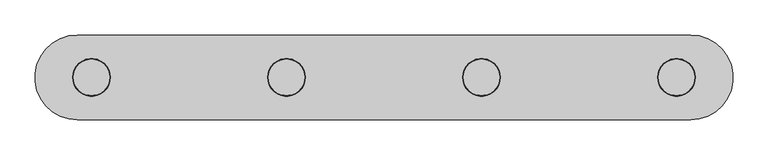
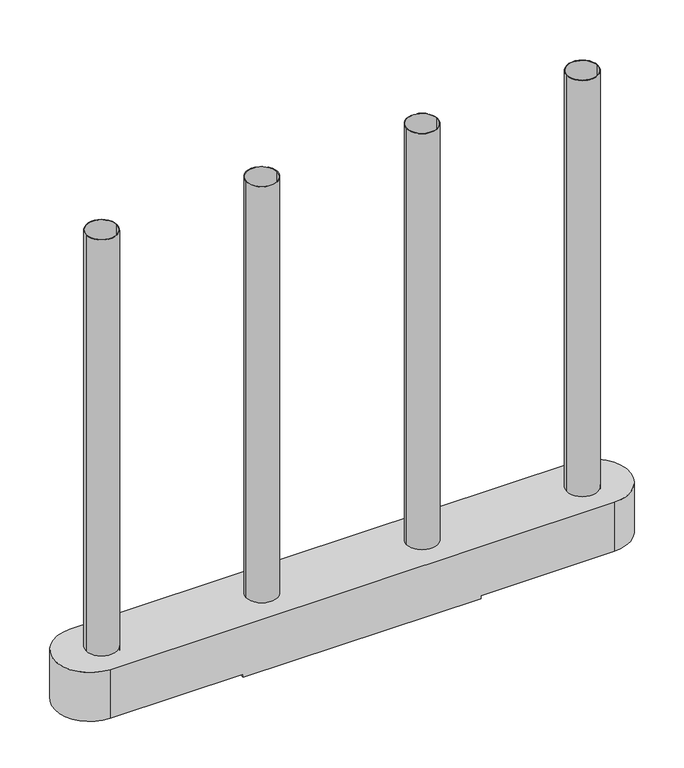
"""IFC4 building model written with IfcOpenShell, lengths in millimetres: proxy geometry, CapPierAssemble.sat."""

from ifc_helpers import new_model, si_unit, point, frame, frame_2d, origin, origin_with_axes, place, context, project, spatial, polyline, circle_curve, trimmed, segment, composite_curve, outline, extrude, source, transform, mapped, element, save
from ifc_brep_helpers import plane_surface, cylinder_surface, revolved_surface, advanced_brep


def generic_models_2d6eb1e5(model_context):
    return source(origin(), model_context, "Body", "SolidModel", [
        advanced_brep(
        [(5029.2, 0.0, -508.0), (5029.2, 0.0, 0.0), (4419.6, 0.0, 0.0), (4419.6, 0.0, -508.0), (-1270.0, 0.0, -508.0), (-1270.0, 0.0, 0.0), (-1879.6, 0.0, 0.0), (-1879.6, 0.0, -508.0), (-4419.6, 0.0, -508.0), (-4419.6, 0.0, 0.0), (-5029.2, 0.0, 0.0), (-5029.2, 0.0, -508.0), (1879.6, 0.0, -508.0), (1879.6, 0.0, 0.0), (1270.0, 0.0, 0.0), (1270.0, 0.0, -508.0), (2336.8, -685.8, -1080.008), (-2336.8, -685.8, -1080.008), (-2336.8, 685.8, -1080.008), (2336.8, 685.8, -1080.008), (-2336.8, -685.8, -1016.0), (-2336.8, 685.8, -1016.0), (2336.8, -685.8, -1016.0), (2336.8, 685.8, -1016.0), (-4953.0, -685.8, -1016.0), (-4953.0, 685.8, -1016.0), (4953.0, 685.8, -1016.0), (4953.0, -685.8, -1016.0), (4953.0, 685.8, 0.0), (4953.0, -685.8, 0.0), (-4953.0, 685.8, 0.0), (-4953.0, -685.8, 0.0)],
        [
            (0, 1),
            (1, 2, circle_curve(frame((4724.4, 0.0, 0.0), z_axis=(0.0, 0.0, 1.0), x_axis=(1.0, 0.0, 0.0)), 304.8)),
            (2, 3),
            (3, 0, circle_curve(frame((4724.4, 0.0, -508.0), z_axis=(0.0, 0.0, -1.0), x_axis=(1.0, 0.0, 0.0)), 304.8)),
            (4, 5),
            (5, 6, circle_curve(frame((-1574.8, 0.0, 0.0), z_axis=(0.0, 0.0, 1.0), x_axis=(1.0, 0.0, 0.0)), 304.8)),
            (6, 7),
            (7, 4, circle_curve(frame((-1574.8, 0.0, -508.0), z_axis=(0.0, 0.0, -1.0), x_axis=(1.0, 0.0, 0.0)), 304.8)),
            (8, 9),
            (9, 10, circle_curve(frame((-4724.4, 0.0, 0.0), z_axis=(0.0, 0.0, 1.0), x_axis=(1.0, 0.0, 0.0)), 304.8)),
            (10, 11),
            (11, 8, circle_curve(frame((-4724.4, 0.0, -508.0), z_axis=(0.0, 0.0, -1.0), x_axis=(1.0, 0.0, 0.0)), 304.8)),
            (12, 13),
            (13, 14, circle_curve(frame((1574.8, 0.0, 0.0), z_axis=(0.0, 0.0, 1.0), x_axis=(1.0, 0.0, 0.0)), 304.8)),
            (14, 15),
            (15, 12, circle_curve(frame((1574.8, 0.0, -508.0), z_axis=(0.0, 0.0, -1.0), x_axis=(1.0, 0.0, 0.0)), 304.8)),
            (16, 17),
            (17, 18),
            (18, 19),
            (19, 16),
            (17, 20),
            (20, 21),
            (21, 18),
            (22, 16),
            (19, 23),
            (23, 22),
            (20, 24),
            (24, 25, circle_curve(frame((-4953.0, 0.0, -1016.0), z_axis=(0.0, 0.0, -1.0), x_axis=(0.0, 1.0, 0.0)), 685.8)),
            (25, 21),
            (23, 26),
            (26, 27, circle_curve(frame((4953.0, 0.0, -1016.0), z_axis=(0.0, 0.0, -1.0), x_axis=(0.0, -1.0, 0.0)), 685.8)),
            (27, 22),
            (12, 15, circle_curve(frame((1574.8, 0.0, -508.0), z_axis=(0.0, 0.0, -1.0), x_axis=(1.0, 0.0, 0.0)), 304.8)),
            (14, 13, circle_curve(frame((1574.8, 0.0, 0.0), z_axis=(0.0, 0.0, 1.0), x_axis=(1.0, 0.0, 0.0)), 304.8)),
            (8, 11, circle_curve(frame((-4724.4, 0.0, -508.0), z_axis=(0.0, 0.0, -1.0), x_axis=(1.0, 0.0, 0.0)), 304.8)),
            (10, 9, circle_curve(frame((-4724.4, 0.0, 0.0), z_axis=(0.0, 0.0, 1.0), x_axis=(1.0, 0.0, 0.0)), 304.8)),
            (4, 7, circle_curve(frame((-1574.8, 0.0, -508.0), z_axis=(0.0, 0.0, -1.0), x_axis=(1.0, 0.0, 0.0)), 304.8)),
            (6, 5, circle_curve(frame((-1574.8, 0.0, 0.0), z_axis=(0.0, 0.0, 1.0), x_axis=(1.0, 0.0, 0.0)), 304.8)),
            (0, 3, circle_curve(frame((4724.4, 0.0, -508.0), z_axis=(0.0, 0.0, -1.0), x_axis=(1.0, 0.0, 0.0)), 304.8)),
            (2, 1, circle_curve(frame((4724.4, 0.0, 0.0), z_axis=(0.0, 0.0, 1.0), x_axis=(1.0, 0.0, 0.0)), 304.8)),
            (28, 29, circle_curve(frame((4953.0, 0.0, 0.0), z_axis=(0.0, 0.0, -1.0), x_axis=(0.0, -1.0, 0.0)), 685.8)),
            (29, 27),
            (26, 28),
            (30, 28),
            (25, 30),
            (31, 30, circle_curve(frame((-4953.0, 0.0, 0.0), z_axis=(0.0, 0.0, -1.0), x_axis=(0.0, 1.0, 0.0)), 685.8)),
            (24, 31),
            (29, 31),
        ],
        [
            revolved_surface(polyline([(5029.2, 0.0, 0.0), (5029.2, 0.0, -508.0)]), (4724.4, 0.0, -254.0), (0.0, 0.0, 1.0)),
            revolved_surface(polyline([(-1270.0, 0.0, 0.0), (-1270.0, 0.0, -508.0)]), (-1574.8, 0.0, -254.0), (0.0, 0.0, 1.0)),
            revolved_surface(polyline([(-4419.599999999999, 0.0, 0.0), (-4419.599999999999, 0.0, -508.0)]), (-4724.4, 0.0, -254.0), (0.0, 0.0, 1.0)),
            revolved_surface(polyline([(1879.6, 0.0, 0.0), (1879.6, 0.0, -508.0)]), (1574.8, 0.0, -254.0), (0.0, 0.0, 1.0)),
            plane_surface(frame((-2336.8, 685.8, -1080.008), z_axis=(0.0, 0.0, -1.0), x_axis=(1.0, 0.0, 0.0))),
            plane_surface(frame((-2336.8, 685.8, -1016.0), z_axis=(-1.0, 0.0, 0.0), x_axis=(0.0, 0.0, -1.0))),
            plane_surface(frame((2336.8, 685.8, -1080.008), z_axis=(1.0, 0.0, 0.0), x_axis=(0.0, 0.0, 1.0))),
            plane_surface(frame((0.0, 0.0, -1016.0), z_axis=(0.0, 0.0, -1.0), x_axis=(1.0, 0.0, 0.0))),
            plane_surface(frame((1574.8, 0.0, -508.0), z_axis=(0.0, 0.0, 1.0), x_axis=(1.0, 0.0, 0.0))),
            plane_surface(frame((-4724.4, 0.0, -508.0), z_axis=(0.0, 0.0, 1.0), x_axis=(1.0, 0.0, 0.0))),
            plane_surface(frame((-1574.8, 0.0, -508.0), z_axis=(0.0, 0.0, 1.0), x_axis=(1.0, 0.0, 0.0))),
            plane_surface(frame((4724.4, 0.0, -508.0), z_axis=(0.0, 0.0, 1.0), x_axis=(1.0, 0.0, 0.0))),
            cylinder_surface(frame((4953.0, 0.0, 0.0), z_axis=(0.0, 0.0, -1.0), x_axis=(0.0, -1.0, 0.0)), 685.8),
            plane_surface(frame((-4953.0, 685.8, 0.0), z_axis=(0.0, 1.0, 0.0), x_axis=(1.0, 0.0, 0.0))),
            cylinder_surface(frame((-4953.0, 0.0, 0.0), z_axis=(0.0, 0.0, -1.0), x_axis=(0.0, 1.0, 0.0)), 685.8),
            plane_surface(frame((4953.0, -685.8, 0.0), z_axis=(0.0, -1.0, 0.0), x_axis=(-1.0, 0.0, 0.0))),
            plane_surface(origin_with_axes()),
        ],
        [
            (0, [[1, 2, 3, 4]]),
            (1, [[5, 6, 7, 8]]),
            (2, [[9, 10, 11, 12]]),
            (3, [[13, 14, 15, 16]]),
            (4, [[17, 18, 19, 20]]),
            (5, [[21, 22, 23, -18]]),
            (6, [[24, -20, 25, 26]]),
            (7, [[-22, 27, 28, 29]]),
            (7, [[-26, 30, 31, 32]]),
            (3, [[-13, 33, -15, 34]]),
            (8, [[-16, -33]]),
            (2, [[-9, 35, -11, 36]]),
            (9, [[-12, -35]]),
            (1, [[-5, 37, -7, 38]]),
            (10, [[-8, -37]]),
            (0, [[-1, 39, -3, 40]]),
            (11, [[-4, -39]]),
            (12, [[41, 42, -31, 43]]),
            (13, [[44, -43, -30, -25, -19, -23, -29, 45]]),
            (14, [[46, -45, -28, 47]]),
            (15, [[48, -47, -27, -21, -17, -24, -32, -42]]),
            (16, [[-48, -41, -44, -46], [-34, -14], [-36, -10], [-38, -6], [-40, -2]]),
        ],
    ),
        extrude(outline(composite_curve([segment(trimmed(circle_curve(frame_2d((4724.4, 0.0)), 304.8), [point((5029.2, 0.0))], [point((4419.6, 0.0))], False, "CARTESIAN"), True, "CONTINUOUS"), segment(trimmed(circle_curve(frame_2d((4724.4, 0.0)), 304.8), [point((4419.6, 0.0))], [point((5029.2, 0.0))], False, "CARTESIAN"), True, "CONTINUOUS")], self_intersect=False), holes=[composite_curve([segment(trimmed(circle_curve(frame_2d((4724.4, 0.0)), 292.1), [point((5016.5, 0.0))], [point((4432.3, 0.0))], True, "CARTESIAN"), True, "CONTINUOUS"), segment(trimmed(circle_curve(frame_2d((4724.4, 0.0)), 292.1), [point((4432.3, 0.0))], [point((5016.5, 0.0))], True, "CARTESIAN"), True, "CONTINUOUS")], self_intersect=False)]), frame((0.0, 0.0, -508.0), z_axis=(0.0, 0.0, 1.0), x_axis=(1.0, 0.0, 0.0)), (0.0, 0.0, 1.0), 9144.0),
        extrude(outline(composite_curve([segment(trimmed(circle_curve(frame_2d((1574.8, 0.0)), 304.8), [point((1879.6, 0.0))], [point((1270.0, 0.0))], False, "CARTESIAN"), True, "CONTINUOUS"), segment(trimmed(circle_curve(frame_2d((1574.8, 0.0)), 304.8), [point((1270.0, 0.0))], [point((1879.6, 0.0))], False, "CARTESIAN"), True, "CONTINUOUS")], self_intersect=False), holes=[composite_curve([segment(trimmed(circle_curve(frame_2d((1574.8, 0.0)), 292.1), [point((1866.9, 0.0))], [point((1282.7, 0.0))], True, "CARTESIAN"), True, "CONTINUOUS"), segment(trimmed(circle_curve(frame_2d((1574.8, 0.0)), 292.1), [point((1282.7, 0.0))], [point((1866.9, 0.0))], True, "CARTESIAN"), True, "CONTINUOUS")], self_intersect=False)]), frame((0.0, 0.0, -508.0), z_axis=(0.0, 0.0, 1.0), x_axis=(1.0, 0.0, 0.0)), (0.0, 0.0, 1.0), 9144.0),
        extrude(outline(composite_curve([segment(trimmed(circle_curve(frame_2d((-1574.8, 0.0)), 304.8), [point((-1270.0, 0.0))], [point((-1879.6, 0.0))], False, "CARTESIAN"), True, "CONTINUOUS"), segment(trimmed(circle_curve(frame_2d((-1574.8, 0.0)), 304.8), [point((-1879.6, 0.0))], [point((-1270.0, 0.0))], False, "CARTESIAN"), True, "CONTINUOUS")], self_intersect=False), holes=[composite_curve([segment(trimmed(circle_curve(frame_2d((-1574.8, 0.0)), 292.1), [point((-1282.7, 0.0))], [point((-1866.9, 0.0))], True, "CARTESIAN"), True, "CONTINUOUS"), segment(trimmed(circle_curve(frame_2d((-1574.8, 0.0)), 292.1), [point((-1866.9, 0.0))], [point((-1282.7, 0.0))], True, "CARTESIAN"), True, "CONTINUOUS")], self_intersect=False)]), frame((0.0, 0.0, -508.0), z_axis=(0.0, 0.0, 1.0), x_axis=(1.0, 0.0, 0.0)), (0.0, 0.0, 1.0), 9144.0),
        extrude(outline(composite_curve([segment(trimmed(circle_curve(frame_2d((-4724.4, 0.0)), 304.8), [point((-4419.6, 0.0))], [point((-5029.2, 0.0))], False, "CARTESIAN"), True, "CONTINUOUS"), segment(trimmed(circle_curve(frame_2d((-4724.4, 0.0)), 304.8), [point((-5029.2, 0.0))], [point((-4419.6, 0.0))], False, "CARTESIAN"), True, "CONTINUOUS")], self_intersect=False), holes=[composite_curve([segment(trimmed(circle_curve(frame_2d((-4724.4, 0.0)), 292.1), [point((-4432.3, 0.0))], [point((-5016.5, 0.0))], True, "CARTESIAN"), True, "CONTINUOUS"), segment(trimmed(circle_curve(frame_2d((-4724.4, 0.0)), 292.1), [point((-5016.5, 0.0))], [point((-4432.3, 0.0))], True, "CARTESIAN"), True, "CONTINUOUS")], self_intersect=False)]), frame((0.0, 0.0, -508.0), z_axis=(0.0, 0.0, 1.0), x_axis=(1.0, 0.0, 0.0)), (0.0, 0.0, 1.0), 9144.0),
    ])


if __name__ == "__main__":
    model = new_model("IFC4")
    model_context = context("Model", 3, world=origin())
    ifc_project = project(units=[si_unit("LENGTHUNIT", "METRE", prefix="MILLI")], contexts=[model_context])
    site = spatial("IfcSite", under=ifc_project)
    building = spatial("IfcBuilding", under=site)
    placement = place(None, origin())
    generic_models_shape = generic_models_2d6eb1e5(model_context)
    element("IfcBuildingElementProxy", 1, Name="CapPierAssemble.sat", ObjectType="CapPierAssemble.sat", at=placement, inside=building, context=model_context, shape_type="MappedRepresentation", body=[
        mapped(generic_models_shape, transform((0.0, 0.0, 0.0), x_axis=(1.0, 0.0, 0.0), y_axis=(0.0, 1.0, 0.0), z_axis=(0.0, 0.0, 1.0))),
    ])
    save(model, "model.ifc")
